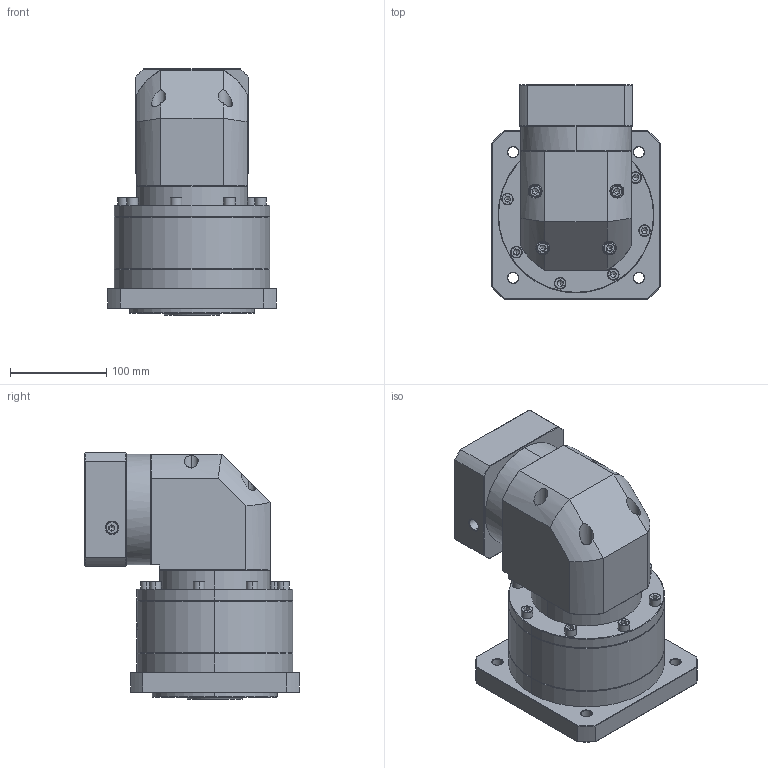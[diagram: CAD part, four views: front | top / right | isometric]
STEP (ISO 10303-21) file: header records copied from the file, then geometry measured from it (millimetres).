
FILE_DESCRIPTION (( 'STEP AP214' ), '1' );
FILE_NAME ('ZFR160A-K35-L2-P2-19-95-115-M8.step', '2023-09-03T09:43:28', ( '' ), ( '' ), 'SwSTEP 2.0', 'SolidWorks 2016', '' );
FILE_SCHEMA (( 'AUTOMOTIVE_DESIGN' ));
Length unit declared in the file: millimetre
Products named in the file (1): ZFR160A-K35-L2-P2-19-95-115-M8
Bounding box: 175 x 222.4 x 256.2 mm (x, y, z)
Volume: 4664085 mm3; surface area: 332992.6 mm2
Topology: 6 solids, 6 shells, 2412 faces, 6336 edges, 4050 vertices
Faces by surface type: plane 1139, cylinder 462, bspline 403, cone 364, torus 44
Entity records: 126539 total; most frequent: CARTESIAN_POINT 45615, ORIENTED_EDGE 12568, DIRECTION 9592, EDGE_CURVE 6284, VERTEX_POINT 4050, VECTOR 3380, LINE 3380, AXIS2_PLACEMENT_3D 3106
